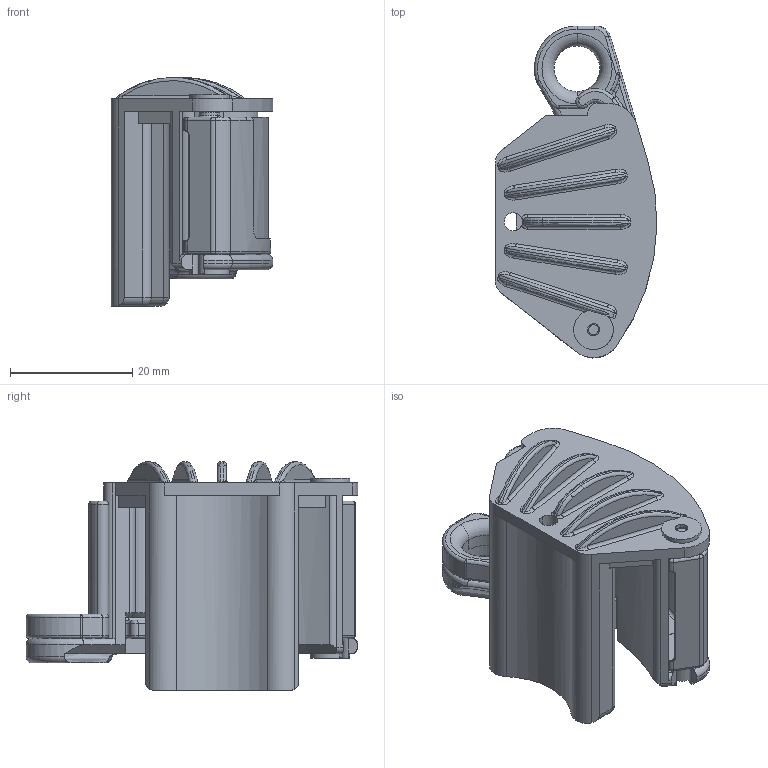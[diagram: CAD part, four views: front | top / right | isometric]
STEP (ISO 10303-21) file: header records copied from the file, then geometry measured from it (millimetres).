
FILE_DESCRIPTION((''),'2;1');
FILE_NAME('41416','2020-08-05T06:41:46',('fries'),('MENNEKES'),'CREO PARAMETRIC BY PTC INC, 2019080','CREO PARAMETRIC BY PTC INC, 2019080','');
FILE_SCHEMA(('AUTOMOTIVE_DESIGN { 1 0 10303 214 1 1 1 1 }'));
Length unit declared in the file: millimetre
Products named in the file (1): 41416
Bounding box: 26.51 x 54.41 x 37.5 mm (x, y, z)
Volume: 15416.5 mm3; surface area: 10617 mm2
Topology: 1 solids, 1 shells, 378 faces, 952 edges, 574 vertices
Faces by surface type: cylinder 134, plane 95, torus 84, bspline 50, cone 12, sphere 3
Entity records: 16726 total; most frequent: CARTESIAN_POINT 4744, DIRECTION 1942, ORIENTED_EDGE 1904, EDGE_CURVE 952, AXIS2_PLACEMENT_3D 798, VERTEX_POINT 574, CIRCLE 470, EDGE_LOOP 386
